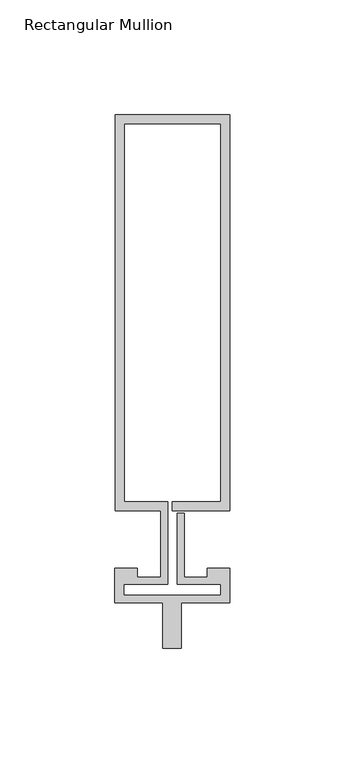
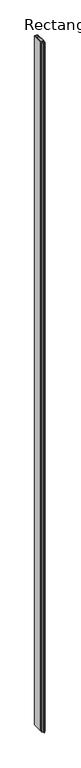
"""IFC4 building model written with IfcOpenShell, lengths in millimetres: member geometry, Rectangular Mullion : Reynaers_CW-50_Mullion-Transom_Horizontal_172.4mm_Facecap-06A."""

from ifc_helpers import new_model, si_unit, frame, origin, place, context, project, spatial, polyline, outline, extrude, source, transform, mapped, element, save


def rectangular_mullion_073814be(model_context):
    return source(origin(), model_context, "Body", "SweptSolid", [
        extrude(outline(polyline([(-24.8004059, 185.0), (25.1995941, 185.0), (25.1995941, 12.5), (0.0, 12.5), (0.0, 16.5), (21.1995941, 16.5), (21.1995941, 181.0), (-20.8004059, 181.0), (-20.8004059, 16.5), (-1.9004059, 16.5), (-1.9004059, -19.5), (-20.994845, -19.5), (-20.994845, -24.4191338), (21.1995941, -24.4191338), (21.1995941, -19.5), (2.2995941, -19.5), (2.2995941, 11.5), (5.2995941, 11.5), (5.2995941, -16.5), (15.2996495, -16.5), (15.2996495, -12.5), (25.1995941, -12.5), (25.1995941, -27.5), (4.004855, -27.5), (4.004855, -47.5), (-3.995145, -47.5), (-3.995145, -27.5), (-24.994845, -27.5), (-24.994845, -12.5), (-15.2996495, -12.5), (-15.2996495, -16.5), (-4.9004059, -16.5), (-4.9004059, 12.5), (-24.8004059, 12.5), (-24.8004059, 185.0)])), frame((0.0, 0.0, -12000.0), z_axis=(0.0, 0.0, 1.0), x_axis=(1.0, 0.0, 0.0)), (0.0, 0.0, 1.0), 12000.0),
    ])


if __name__ == "__main__":
    model = new_model("IFC4")
    model_context = context("Model", 3, world=origin())
    ifc_project = project(units=[si_unit("LENGTHUNIT", "METRE", prefix="MILLI")], contexts=[model_context])
    site = spatial("IfcSite", under=ifc_project)
    building = spatial("IfcBuilding", under=site)
    placement = place(None, origin())
    rectangular_mullion_shape = rectangular_mullion_073814be(model_context)
    element("IfcMember", 1, ObjectType="Rectangular Mullion : Reynaers_CW-50_Mullion-Transom_Horizontal_172.4mm_Facecap-06A", at=placement, inside=building, context=model_context, shape_type="MappedRepresentation", body=[
        mapped(rectangular_mullion_shape, transform((0.0, 0.0, 0.0), x_axis=(1.0, 0.0, 0.0), y_axis=(0.0, 1.0, 0.0), z_axis=(0.0, 0.0, 1.0))),
    ])
    save(model, "model.ifc")
